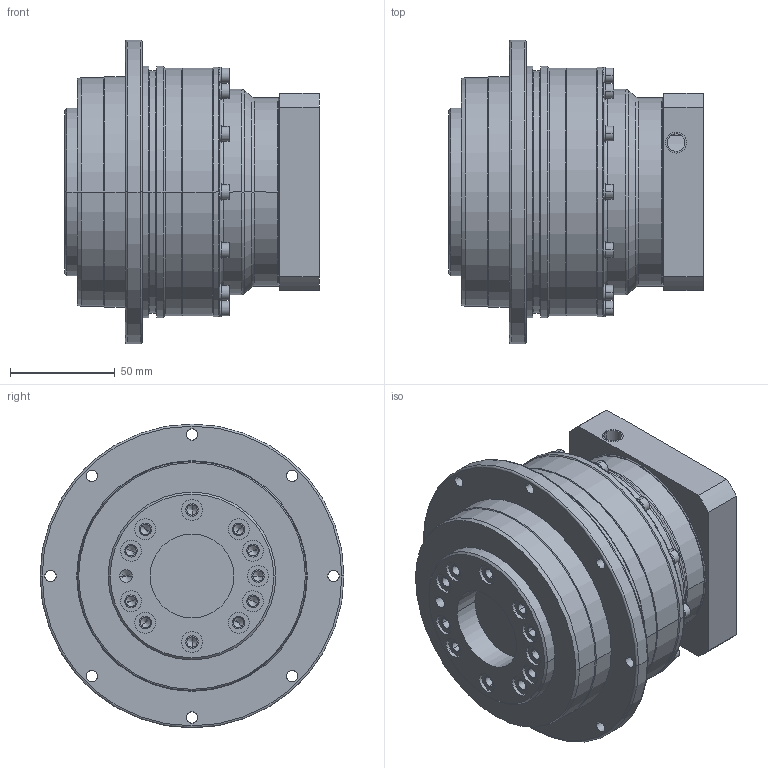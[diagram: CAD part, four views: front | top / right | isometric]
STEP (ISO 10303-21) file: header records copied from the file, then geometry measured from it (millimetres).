
FILE_DESCRIPTION((''),'2;1');
FILE_NAME('AD1101-P0403402303_ASM','2023-09-06T',('Administrator'),(''),'PRO/ENGINEER BY PARAMETRIC TECHNOLOGY CORPORATION, 2015240','PRO/ENGINEER BY PARAMETRIC TECHNOLOGY CORPORATION, 2015240','');
FILE_SCHEMA(('CONFIG_CONTROL_DESIGN'));
Length unit declared in the file: millimetre
Products named in the file (6): P1303400001_D; AD110; AB-INPUTSHAFT-4; AD1101_ASM; P0403402303-0002; AD1101-P0403402303_ASM
Assembly tree (5 placements, depth 3):
  AD1101-P0403402303_ASM
    AD1101_ASM
      P1303400001_D
      AD110
      AB-INPUTSHAFT-4
    P0403402303-0002
Bounding box: 121.5 x 145 x 145 mm (x, y, z)
Volume: 945057.8 mm3; surface area: 147336 mm2
Topology: 4 solids, 20 shells, 416 faces, 983 edges, 607 vertices
Faces by surface type: cylinder 225, plane 97, cone 76, torus 18
Entity records: 12211 total; most frequent: DIRECTION 2427, CARTESIAN_POINT 2044, ORIENTED_EDGE 1834, AXIS2_PLACEMENT_3D 1047, EDGE_CURVE 949, CIRCLE 613, VERTEX_POINT 607, EDGE_LOOP 518
